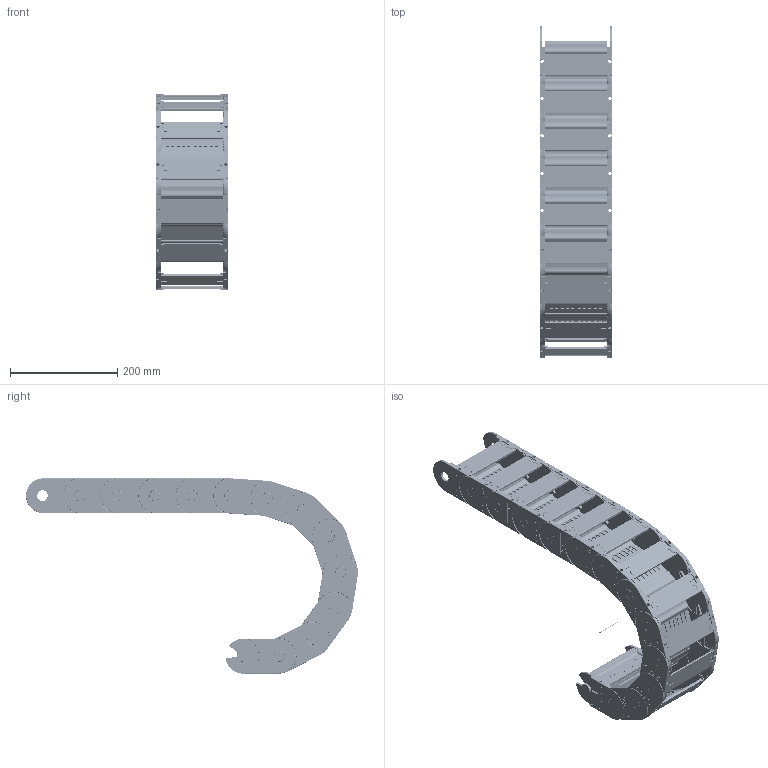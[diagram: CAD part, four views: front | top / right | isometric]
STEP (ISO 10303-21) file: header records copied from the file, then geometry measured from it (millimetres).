
FILE_DESCRIPTION((''),'2;1');
FILE_NAME('C:\Uebbing\PARAMETERKETTEN\KOLIBRI\Kol_65_135_1\Kol_65_135_1_R150.stp','2012-03-06T08:55:52',('Uebbing'),(''),'Autodesk Inventor 10','Autodesk Inventor 10','');
FILE_SCHEMA(('AUTOMOTIVE_DESIGN { 1 0 10303 214 1 1 1 1 }'));
Length unit declared in the file: millimetre
Products named in the file (5): KOLIBRI 65_135_1_PARAMETRISCH; Achse; Kol_65_135_1; Kol_65_135_5 Lasche; Kol_65_135_1 Klappsteg
Assembly tree (16 placements, depth 3):
  KOLIBRI 65_135_1_PARAMETRISCH
    Achse
    Kol_65_135_1  x13
      Kol_65_135_5 Lasche
      Kol_65_135_1 Klappsteg
Bounding box: 135 x 620.06 x 365 mm (x, y, z)
Volume: 1364432.9 mm3; surface area: 911575.1 mm2
Topology: 27 solids, 27 shells, 7504 faces, 20531 edges, 13146 vertices
Faces by surface type: plane 3122, bspline 2808, cylinder 1262, torus 234, cone 52, sphere 26
Full cylindrical faces by diameter (mm): 1 x1, 2.514 x13, 4 x39, 4.414 x13, 6 x13, 20 x26
Entity records: 19726 total; most frequent: CARTESIAN_POINT 5475, ORIENTED_EDGE 3092, DIRECTION 2644, EDGE_CURVE 1546, VECTOR 1126, LINE 1126, VERTEX_POINT 1002, AXIS2_PLACEMENT_3D 759
